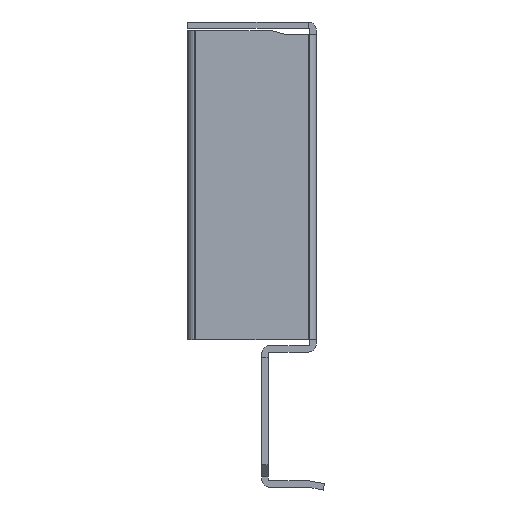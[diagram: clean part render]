
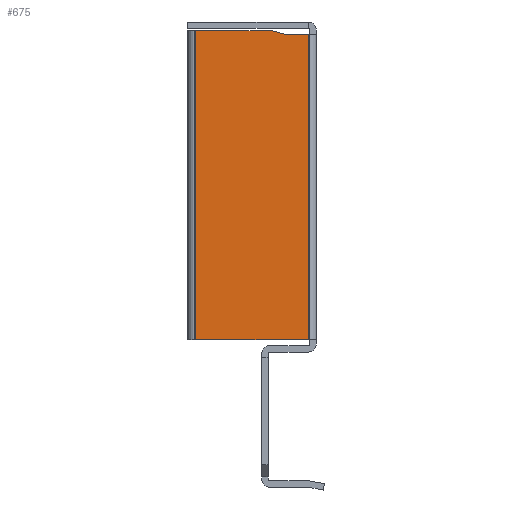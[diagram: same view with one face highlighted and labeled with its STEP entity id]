
A CAD part, left-side view. The second image highlights one B-rep face of the part: STEP entity #675.
In plain terms, the highlighted planar face has unit normal (-1, 0, 0).
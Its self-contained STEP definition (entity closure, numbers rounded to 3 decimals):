
#106 = DIRECTION ( 'NONE',  ( 0., -1., 0. ) ) ;
#107 = DIRECTION ( 'NONE',  ( -1., 0., 0. ) ) ;
#108 = CARTESIAN_POINT ( 'NONE',  ( -455., -5., 74.385 ) ) ;
#110 = PLANE ( 'NONE',  #2111 ) ;
#118 = VERTEX_POINT ( 'NONE', #409 ) ;
#128 = VERTEX_POINT ( 'NONE', #406 ) ;
#271 = VERTEX_POINT ( 'NONE', #376 ) ;
#295 = CARTESIAN_POINT ( 'NONE',  ( -455., -5., 55.5 ) ) ;
#339 = CARTESIAN_POINT ( 'NONE',  ( -455., 9., 17.5 ) ) ;
#347 = CARTESIAN_POINT ( 'NONE',  ( -455., 9., 55.9 ) ) ;
#376 = CARTESIAN_POINT ( 'NONE',  ( -455., -5., 17.5 ) ) ;
#406 = CARTESIAN_POINT ( 'NONE',  ( -455., -0.507, 55.9 ) ) ;
#409 = CARTESIAN_POINT ( 'NONE',  ( -455., -2., 55.5 ) ) ;
#458 = VERTEX_POINT ( 'NONE', #347 ) ;
#467 = VERTEX_POINT ( 'NONE', #339 ) ;
#525 = VERTEX_POINT ( 'NONE', #295 ) ;
#675 = ADVANCED_FACE ( 'NONE', ( #1402 ), #110, .T. ) ;
#873 = EDGE_LOOP ( 'NONE', ( #1256, #1257, #1258, #1259, #1260, #1261 ) ) ;
#1256 = ORIENTED_EDGE ( 'NONE', *, *, #1916, .F. ) ;
#1257 = ORIENTED_EDGE ( 'NONE', *, *, #1917, .F. ) ;
#1258 = ORIENTED_EDGE ( 'NONE', *, *, #1907, .T. ) ;
#1259 = ORIENTED_EDGE ( 'NONE', *, *, #1915, .T. ) ;
#1260 = ORIENTED_EDGE ( 'NONE', *, *, #1899, .F. ) ;
#1261 = ORIENTED_EDGE ( 'NONE', *, *, #1918, .F. ) ;
#1402 = FACE_OUTER_BOUND ( 'NONE', #873, .T. ) ;
#1534 = LINE ( 'NONE', #2446, #1536 ) ;
#1536 = VECTOR ( 'NONE', #2445, 1000. ) ;
#1547 = LINE ( 'NONE', #2418, #1549 ) ;
#1549 = VECTOR ( 'NONE', #2417, 1000. ) ;
#1562 = LINE ( 'NONE', #2392, #1563 ) ;
#1563 = VECTOR ( 'NONE', #2391, 1000. ) ;
#1564 = LINE ( 'NONE', #2389, #1565 ) ;
#1565 = VECTOR ( 'NONE', #2388, 1000. ) ;
#1566 = LINE ( 'NONE', #2386, #1567 ) ;
#1567 = VECTOR ( 'NONE', #2385, 1000. ) ;
#1568 = LINE ( 'NONE', #2383, #1569 ) ;
#1569 = VECTOR ( 'NONE', #2382, 1000. ) ;
#1899 = EDGE_CURVE ( 'NONE', #271, #467, #1534, .T. ) ;
#1907 = EDGE_CURVE ( 'NONE', #128, #458, #1547, .T. ) ;
#1915 = EDGE_CURVE ( 'NONE', #458, #467, #1562, .T. ) ;
#1916 = EDGE_CURVE ( 'NONE', #118, #525, #1564, .T. ) ;
#1917 = EDGE_CURVE ( 'NONE', #128, #118, #1566, .T. ) ;
#1918 = EDGE_CURVE ( 'NONE', #525, #271, #1568, .T. ) ;
#2111 = AXIS2_PLACEMENT_3D ( 'NONE', #108, #107, #106 ) ;
#2382 = DIRECTION ( 'NONE',  ( 0., 0., -1. ) ) ;
#2383 = CARTESIAN_POINT ( 'NONE',  ( -455., -5., 74.385 ) ) ;
#2385 = DIRECTION ( 'NONE',  ( 0., -0.966, -0.259 ) ) ;
#2386 = CARTESIAN_POINT ( 'NONE',  ( -455., 0.612, 56.2 ) ) ;
#2388 = DIRECTION ( 'NONE',  ( 0., -1., 0. ) ) ;
#2389 = CARTESIAN_POINT ( 'NONE',  ( -455., -2., 55.5 ) ) ;
#2391 = DIRECTION ( 'NONE',  ( 0., 0., -1. ) ) ;
#2392 = CARTESIAN_POINT ( 'NONE',  ( -455., 9., 74.385 ) ) ;
#2417 = DIRECTION ( 'NONE',  ( 0., 1., 0. ) ) ;
#2418 = CARTESIAN_POINT ( 'NONE',  ( -455., -5., 55.9 ) ) ;
#2445 = DIRECTION ( 'NONE',  ( 0., 1., 0. ) ) ;
#2446 = CARTESIAN_POINT ( 'NONE',  ( -455., -5., 17.5 ) ) ;
